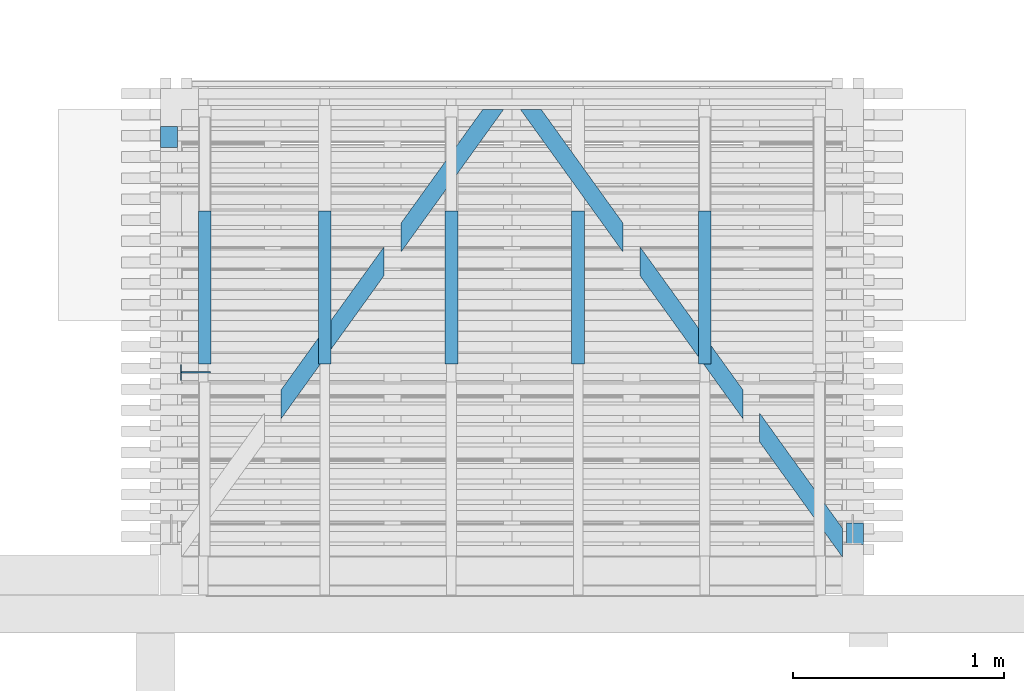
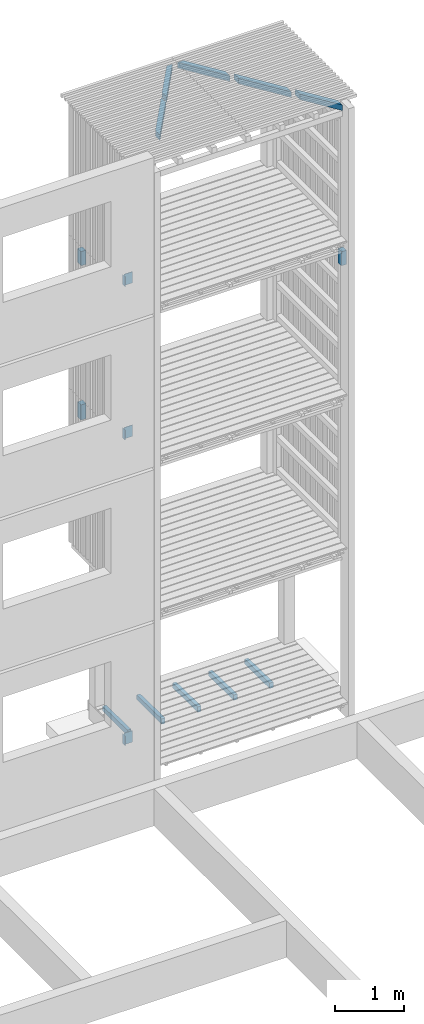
# One storey, part 175 of 182: 16 beams.
"""IFC2X3 building model written with IfcOpenShell, lengths in metres."""

from ifc_helpers import new_model, si_unit, frame, origin, place, context, project, spatial, faceted_brep, element, save


model = new_model("IFC2X3")

# Units and contexts
model_context = context("Model", 3, precision=1e-06, world=origin())
ifc_project = project(units=[si_unit("LENGTHUNIT", "METRE"), si_unit("PLANEANGLEUNIT", "RADIAN")], contexts=[model_context])

# Site, building, storey
site = spatial("IfcSite", under=ifc_project, CompositionType="ELEMENT")
building = spatial("IfcBuilding", under=site, CompositionType="ELEMENT")
storey = spatial("IfcBuildingStorey", under=building, Name="vs", CompositionType="ELEMENT", Elevation=-0.85)

# Beams
placement = place(None, origin())
beam_1_placement = place(placement, frame((53.190999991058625, 5.925077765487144, 7.839999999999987), z_axis=(1.0, 0.0, 0.0), x_axis=(0.0, 0.0, 1.0)))
element("IfcBeam", 1, at=beam_1_placement, inside=storey, Name="Contre-usinage", context=model_context, shape_type="Brep", body=[
    faceted_brep([(0.200000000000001, 0.004000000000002, -0.066000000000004), (0.200000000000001, -0.004000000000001, -0.066000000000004), (0.175000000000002, -0.004000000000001, -0.066000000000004), (0.175000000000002, 0.004000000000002, -0.066000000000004), (0.175000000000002, -0.004000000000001, -0.066000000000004), (2e-15, -0.004000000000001, -0.066000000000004), (2e-15, -0.038, -0.066000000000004), (0.175000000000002, -0.038, -0.066000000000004), (0.175000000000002, 0.038000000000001, -0.066000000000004), (2e-15, 0.038000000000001, -0.066000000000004), (2e-15, 0.004000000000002, -0.066000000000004), (0.175000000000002, 0.004000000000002, -0.066000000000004), (0.200000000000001, 0.004000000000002, -0.066000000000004), (0.175000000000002, 0.004000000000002, -0.066000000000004), (2e-15, 0.004000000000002, -0.066000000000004), (2e-15, 0.004000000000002, 0.070999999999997), (0.200000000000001, 0.004000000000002, 0.070999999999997), (0.200000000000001, 0.004000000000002, 0.070999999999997), (2e-15, 0.004000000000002, 0.070999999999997), (2e-15, -0.004000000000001, 0.070999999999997), (0.200000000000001, -0.004000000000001, 0.070999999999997), (0.175000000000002, -0.038, -0.070999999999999), (2e-15, -0.038, -0.070999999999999), (2e-15, 0.038000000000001, -0.070999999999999), (0.175000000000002, 0.038000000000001, -0.070999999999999), (0.175000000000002, 0.038000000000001, -0.066000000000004), (0.175000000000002, 0.004000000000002, -0.066000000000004), (0.175000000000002, -0.004000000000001, -0.066000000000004), (0.175000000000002, -0.038, -0.066000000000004), (0.175000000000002, -0.038, -0.070999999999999), (0.175000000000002, 0.038000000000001, -0.070999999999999), (0.200000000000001, -0.004000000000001, 0.070999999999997), (2e-15, -0.004000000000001, 0.070999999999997), (2e-15, -0.004000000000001, -0.066000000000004), (0.175000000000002, -0.004000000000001, -0.066000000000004), (0.200000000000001, -0.004000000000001, -0.066000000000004), (0.200000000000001, -0.004000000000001, -0.066000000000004), (0.200000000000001, 0.004000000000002, -0.066000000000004), (0.200000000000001, 0.004000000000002, 0.070999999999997), (0.200000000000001, -0.004000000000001, 0.070999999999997), (0.175000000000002, -0.038, -0.070999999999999), (0.175000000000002, -0.038, -0.066000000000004), (2e-15, -0.038, -0.066000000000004), (2e-15, -0.038, -0.070999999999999), (2e-15, -0.038, -0.066000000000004), (2e-15, -0.004000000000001, -0.066000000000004), (2e-15, -0.004000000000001, 0.070999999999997), (2e-15, 0.004000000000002, 0.070999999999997), (2e-15, 0.004000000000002, -0.066000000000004), (2e-15, 0.038000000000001, -0.066000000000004), (2e-15, 0.038000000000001, -0.070999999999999), (2e-15, -0.038, -0.070999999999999), (0.175000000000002, 0.038000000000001, -0.066000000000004), (0.175000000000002, 0.038000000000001, -0.070999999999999), (2e-15, 0.038000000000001, -0.070999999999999), (2e-15, 0.038000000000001, -0.066000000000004)], [[[0, 1, 2, 3]], [[4, 5, 6, 7]], [[8, 9, 10, 11]], [[12, 13, 14, 15, 16]], [[17, 18, 19, 20]], [[21, 22, 23, 24]], [[25, 26, 27, 28, 29, 30]], [[31, 32, 33, 34, 35]], [[36, 37, 38, 39]], [[40, 41, 42, 43]], [[44, 45, 46, 47, 48, 49, 50, 51]], [[52, 53, 54, 55]]]),
])
beam_2_placement = place(placement, frame((56.314999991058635, 5.160077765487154, 7.576188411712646), z_axis=(0.0, 1.0, 0.0), x_axis=(0.0, 0.0, 1.0)))
element("IfcBeam", 2, at=beam_2_placement, inside=storey, Name="Support bardage", context=model_context, shape_type="Brep", body=[
    faceted_brep([(0.248811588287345, 0.039999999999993, -0.050000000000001), (0.248811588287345, 0.039999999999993, 0.05), (0.248811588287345, -0.04000000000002, 0.05), (0.248811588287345, -0.04000000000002, -0.050000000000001), (0.248811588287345, 0.039999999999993, -0.050000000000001), (0.248811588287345, -0.04000000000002, -0.050000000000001), (0.0, -0.04000000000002, -0.050000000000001), (0.0, 0.039999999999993, -0.050000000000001), (0.0, -0.04000000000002, -0.050000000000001), (0.248811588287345, -0.04000000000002, -0.050000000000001), (0.248811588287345, -0.04000000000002, 0.05), (0.0, -0.04000000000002, 0.05), (0.0, -0.04000000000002, 0.05), (0.248811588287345, -0.04000000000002, 0.05), (0.248811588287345, 0.039999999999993, 0.05), (0.0, 0.039999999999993, 0.05), (0.0, 0.039999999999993, 0.05), (0.248811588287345, 0.039999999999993, 0.05), (0.248811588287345, 0.039999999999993, -0.050000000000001), (0.0, 0.039999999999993, -0.050000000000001), (0.0, -0.04000000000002, 0.05), (0.0, 0.039999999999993, 0.05), (0.0, 0.039999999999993, -0.050000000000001), (0.0, -0.04000000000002, -0.050000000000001)], [[[0, 1, 2, 3]], [[4, 5, 6, 7]], [[8, 9, 10, 11]], [[12, 13, 14, 15]], [[16, 17, 18, 19]], [[20, 21, 22, 23]]]),
])
beam_3_placement = place(placement, frame((55.60299999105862, 5.965077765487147, -0.091949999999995), z_axis=(0.0, 0.0, 1.0), x_axis=(0.0, 1.0, 0.0)))
element("IfcBeam", 3, at=beam_3_placement, inside=storey, Name="Solive", context=model_context, shape_type="Brep", body=[
    faceted_brep([(0.0, -0.029999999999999, -0.04805), (0.0, 0.030000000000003, -0.04805), (0.725000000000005, 0.030000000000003, -0.04805), (0.725000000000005, -0.029999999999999, -0.04805), (0.725000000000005, -0.029999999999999, 0.033549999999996), (0.0, -0.029999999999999, 0.048049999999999), (0.0, -0.029999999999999, -0.04805), (0.725000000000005, -0.029999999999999, -0.04805), (0.0, -0.029999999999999, 0.048049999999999), (0.725000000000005, -0.029999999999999, 0.033549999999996), (0.725000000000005, 0.030000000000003, 0.033549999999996), (0.0, 0.030000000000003, 0.048049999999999), (0.0, -0.029999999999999, 0.048049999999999), (0.0, 0.030000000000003, 0.048049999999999), (0.0, 0.030000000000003, -0.04805), (0.0, -0.029999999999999, -0.04805), (0.0, 0.030000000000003, -0.04805), (0.0, 0.030000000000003, 0.048049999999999), (0.725000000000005, 0.030000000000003, 0.033549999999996), (0.725000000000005, 0.030000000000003, -0.04805), (0.725000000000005, -0.029999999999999, 0.033549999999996), (0.725000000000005, -0.029999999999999, -0.04805), (0.725000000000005, 0.030000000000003, -0.04805), (0.725000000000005, 0.030000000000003, 0.033549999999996)], [[[0, 1, 2, 3]], [[4, 5, 6, 7]], [[8, 9, 10, 11]], [[12, 13, 14, 15]], [[16, 17, 18, 19]], [[20, 21, 22, 23]]]),
])
beam_4_placement = place(placement, frame((55.00299999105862, 5.965077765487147, -0.091949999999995), z_axis=(0.0, 0.0, 1.0), x_axis=(0.0, 1.0, 0.0)))
element("IfcBeam", 4, at=beam_4_placement, inside=storey, Name="Solive", context=model_context, shape_type="Brep", body=[
    faceted_brep([(0.0, -0.030000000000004, -0.04805), (0.0, 0.029999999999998, -0.04805), (0.725000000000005, 0.029999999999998, -0.04805), (0.725000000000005, -0.030000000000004, -0.04805), (0.725000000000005, -0.030000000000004, 0.033549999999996), (0.0, -0.030000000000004, 0.048049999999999), (0.0, -0.030000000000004, -0.04805), (0.725000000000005, -0.030000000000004, -0.04805), (0.0, -0.030000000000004, 0.048049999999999), (0.725000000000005, -0.030000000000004, 0.033549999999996), (0.725000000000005, 0.029999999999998, 0.033549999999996), (0.0, 0.029999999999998, 0.048049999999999), (0.0, -0.030000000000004, 0.048049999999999), (0.0, 0.029999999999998, 0.048049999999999), (0.0, 0.029999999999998, -0.04805), (0.0, -0.030000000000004, -0.04805), (0.0, 0.029999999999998, -0.04805), (0.0, 0.029999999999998, 0.048049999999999), (0.725000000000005, 0.029999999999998, 0.033549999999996), (0.725000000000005, 0.029999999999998, -0.04805), (0.725000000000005, -0.030000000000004, 0.033549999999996), (0.725000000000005, -0.030000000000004, -0.04805), (0.725000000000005, 0.029999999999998, -0.04805), (0.725000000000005, 0.029999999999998, 0.033549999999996)], [[[0, 1, 2, 3]], [[4, 5, 6, 7]], [[8, 9, 10, 11]], [[12, 13, 14, 15]], [[16, 17, 18, 19]], [[20, 21, 22, 23]]]),
])
beam_5_placement = place(placement, frame((53.23499999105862, 5.965077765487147, -0.091949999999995), z_axis=(0.0, 0.0, 1.0), x_axis=(0.0, 1.0, 0.0)))
element("IfcBeam", 5, at=beam_5_placement, inside=storey, Name="Solive", context=model_context, shape_type="Brep", body=[
    faceted_brep([(0.0, -0.030000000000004, -0.04805), (0.0, 0.029999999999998, -0.04805), (0.725000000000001, 0.029999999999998, -0.04805), (0.725000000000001, -0.030000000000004, -0.04805), (0.725000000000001, -0.030000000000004, 0.033549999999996), (0.0, -0.030000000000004, 0.048049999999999), (0.0, -0.030000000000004, -0.04805), (0.725000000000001, -0.030000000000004, -0.04805), (0.0, -0.030000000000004, 0.048049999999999), (0.725000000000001, -0.030000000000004, 0.033549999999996), (0.725000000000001, 0.029999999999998, 0.033549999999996), (0.0, 0.029999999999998, 0.048049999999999), (0.0, -0.030000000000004, 0.048049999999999), (0.0, 0.029999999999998, 0.048049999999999), (0.0, 0.029999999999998, -0.04805), (0.0, -0.030000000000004, -0.04805), (0.0, 0.029999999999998, -0.04805), (0.0, 0.029999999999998, 0.048049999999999), (0.725000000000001, 0.029999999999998, 0.033549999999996), (0.725000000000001, 0.029999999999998, -0.04805), (0.725000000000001, -0.030000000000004, 0.033549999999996), (0.725000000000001, -0.030000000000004, -0.04805), (0.725000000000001, 0.029999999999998, -0.04805), (0.725000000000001, 0.029999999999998, 0.033549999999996)], [[[0, 1, 2, 3]], [[4, 5, 6, 7]], [[8, 9, 10, 11]], [[12, 13, 14, 15]], [[16, 17, 18, 19]], [[20, 21, 22, 23]]]),
])
beam_6_placement = place(placement, frame((53.190999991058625, 5.925077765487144, -0.243899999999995), z_axis=(1.0, 0.0, 0.0), x_axis=(0.0, 0.0, 1.0)))
element("IfcBeam", 6, at=beam_6_placement, inside=storey, Name="Contre-usinage", context=model_context, shape_type="Brep", body=[
    faceted_brep([(0.2, 0.004000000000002, -0.066000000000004), (0.2, -0.004000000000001, -0.066000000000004), (0.175, -0.004000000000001, -0.066000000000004), (0.175, 0.004000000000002, -0.066000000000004), (0.175, -0.004000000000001, -0.066000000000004), (0.0, -0.004000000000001, -0.066000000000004), (0.0, -0.038, -0.066000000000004), (0.175, -0.038, -0.066000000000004), (0.175, 0.038000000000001, -0.066000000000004), (0.0, 0.038000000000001, -0.066000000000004), (0.0, 0.004000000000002, -0.066000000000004), (0.175, 0.004000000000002, -0.066000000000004), (0.2, 0.004000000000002, -0.066000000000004), (0.175, 0.004000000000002, -0.066000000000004), (0.0, 0.004000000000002, -0.066000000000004), (0.0, 0.004000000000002, 0.070999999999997), (0.2, 0.004000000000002, 0.070999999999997), (0.2, 0.004000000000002, 0.070999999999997), (0.0, 0.004000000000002, 0.070999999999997), (0.0, -0.004000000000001, 0.070999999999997), (0.2, -0.004000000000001, 0.070999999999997), (0.175, -0.038, -0.070999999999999), (0.0, -0.038, -0.070999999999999), (0.0, 0.038000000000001, -0.070999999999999), (0.175, 0.038000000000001, -0.070999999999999), (0.2, -0.004000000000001, -0.066000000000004), (0.2, 0.004000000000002, -0.066000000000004), (0.2, 0.004000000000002, 0.070999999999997), (0.2, -0.004000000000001, 0.070999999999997), (0.2, -0.004000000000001, 0.070999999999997), (0.0, -0.004000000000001, 0.070999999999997), (0.0, -0.004000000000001, -0.066000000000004), (0.175, -0.004000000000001, -0.066000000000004), (0.2, -0.004000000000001, -0.066000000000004), (0.175, 0.038000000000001, -0.066000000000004), (0.175, 0.004000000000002, -0.066000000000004), (0.175, -0.004000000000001, -0.066000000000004), (0.175, -0.038, -0.066000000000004), (0.175, -0.038, -0.070999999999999), (0.175, 0.038000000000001, -0.070999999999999), (0.0, -0.038, -0.066000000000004), (0.0, -0.004000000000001, -0.066000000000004), (0.0, -0.004000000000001, 0.070999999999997), (0.0, 0.004000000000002, 0.070999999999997), (0.0, 0.004000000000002, -0.066000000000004), (0.0, 0.038000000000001, -0.066000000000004), (0.0, 0.038000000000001, -0.070999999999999), (0.0, -0.038, -0.070999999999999), (0.175, -0.038, -0.070999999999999), (0.175, -0.038, -0.066000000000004), (0.0, -0.038, -0.066000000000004), (0.0, -0.038, -0.070999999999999), (0.175, 0.038000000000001, -0.066000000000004), (0.175, 0.038000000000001, -0.070999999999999), (0.0, 0.038000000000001, -0.070999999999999), (0.0, 0.038000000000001, -0.066000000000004)], [[[0, 1, 2, 3]], [[4, 5, 6, 7]], [[8, 9, 10, 11]], [[12, 13, 14, 15, 16]], [[17, 18, 19, 20]], [[21, 22, 23, 24]], [[25, 26, 27, 28]], [[29, 30, 31, 32, 33]], [[34, 35, 36, 37, 38, 39]], [[40, 41, 42, 43, 44, 45, 46, 47]], [[48, 49, 50, 51]], [[52, 53, 54, 55]]]),
])
beam_7_placement = place(placement, frame((53.56419511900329, 5.729129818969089, 10.404999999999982), z_axis=(0.0, 0.0, 1.0), x_axis=(0.583951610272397, 0.811788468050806, 0.0)))
element("IfcBeam", 7, at=beam_7_placement, inside=storey, Name="Support bardage", context=model_context, shape_type="Brep", body=[
    faceted_brep([(0.833402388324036, -0.040000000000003, 0.050000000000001), (0.833402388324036, -0.040000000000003, -0.050000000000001), (0.944615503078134, 0.039999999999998, -0.050000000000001), (0.944615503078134, 0.039999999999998, 0.050000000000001), (0.833402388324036, -0.040000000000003, -0.050000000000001), (0.833402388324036, -0.040000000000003, 0.050000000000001), (3e-15, -0.040000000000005, 0.050000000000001), (3e-15, -0.040000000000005, -0.050000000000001), (0.944615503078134, 0.039999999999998, -0.050000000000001), (0.833402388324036, -0.040000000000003, -0.050000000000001), (3e-15, -0.040000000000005, -0.050000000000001), (0.111213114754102, 0.039999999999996, -0.050000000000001), (0.944615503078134, 0.039999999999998, 0.050000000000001), (0.944615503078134, 0.039999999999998, -0.050000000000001), (0.111213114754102, 0.039999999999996, -0.050000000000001), (0.111213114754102, 0.039999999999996, 0.050000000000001), (0.833402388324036, -0.040000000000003, 0.050000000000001), (0.944615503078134, 0.039999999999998, 0.050000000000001), (0.111213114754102, 0.039999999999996, 0.050000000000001), (3e-15, -0.040000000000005, 0.050000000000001), (0.111213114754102, 0.039999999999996, -0.050000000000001), (3e-15, -0.040000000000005, -0.050000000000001), (3e-15, -0.040000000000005, 0.050000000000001), (0.111213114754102, 0.039999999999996, 0.050000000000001)], [[[0, 1, 2, 3]], [[4, 5, 6, 7]], [[8, 9, 10, 11]], [[12, 13, 14, 15]], [[16, 17, 18, 19]], [[20, 21, 22, 23]]]),
])
beam_8_placement = place(placement, frame((54.130861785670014, 6.51688938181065, 10.404999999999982), z_axis=(0.0, 0.0, 1.0), x_axis=(0.583951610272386, 0.811788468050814, 0.0)))
element("IfcBeam", 8, at=beam_8_placement, inside=storey, Name="Support bardage", context=model_context, shape_type="Brep", body=[
    faceted_brep([(0.775855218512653, 0.039999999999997, -0.050000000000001), (0.775855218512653, 0.039999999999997, 0.050000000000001), (0.833402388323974, -0.040000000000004, 0.050000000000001), (0.833402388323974, -0.040000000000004, -0.049999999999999), (0.833402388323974, -0.040000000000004, -0.049999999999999), (0.833402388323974, -0.040000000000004, 0.050000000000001), (4e-15, -0.040000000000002, 0.050000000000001), (4e-15, -0.040000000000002, -0.050000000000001), (0.775855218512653, 0.039999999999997, -0.050000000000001), (0.833402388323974, -0.040000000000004, -0.049999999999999), (4e-15, -0.040000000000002, -0.050000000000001), (0.111213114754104, 0.039999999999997, -0.050000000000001), (0.775855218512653, 0.039999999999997, 0.050000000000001), (0.775855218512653, 0.039999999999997, -0.050000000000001), (0.111213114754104, 0.039999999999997, -0.050000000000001), (0.111213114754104, 0.039999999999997, 0.050000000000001), (0.833402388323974, -0.040000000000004, 0.050000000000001), (0.775855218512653, 0.039999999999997, 0.050000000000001), (0.111213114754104, 0.039999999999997, 0.050000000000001), (4e-15, -0.040000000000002, 0.050000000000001), (0.111213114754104, 0.039999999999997, -0.050000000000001), (4e-15, -0.040000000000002, -0.050000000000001), (4e-15, -0.040000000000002, 0.050000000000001), (0.111213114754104, 0.039999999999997, 0.050000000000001)], [[[0, 1, 2, 3]], [[4, 5, 6, 7]], [[8, 9, 10, 11]], [[12, 13, 14, 15]], [[16, 17, 18, 19]], [[20, 21, 22, 23]]]),
])
beam_9_placement = place(placement, frame((55.24913819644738, 6.516889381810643, 10.404999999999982), z_axis=(0.0, 0.0, 1.0), x_axis=(-0.583951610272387, 0.811788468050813, 0.0)))
element("IfcBeam", 9, at=beam_9_placement, inside=storey, Name="Support bardage", context=model_context, shape_type="Brep", body=[
    faceted_brep([(0.0, 0.040000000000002, 0.050000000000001), (0.0, 0.040000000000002, -0.050000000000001), (0.1112131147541, -0.039999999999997, -0.050000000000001), (0.1112131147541, -0.039999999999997, 0.050000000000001), (0.775855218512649, -0.039999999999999, 0.050000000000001), (0.83340238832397, 0.040000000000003, 0.050000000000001), (0.0, 0.040000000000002, 0.050000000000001), (0.1112131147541, -0.039999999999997, 0.050000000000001), (0.83340238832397, 0.040000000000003, -0.049999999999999), (0.775855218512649, -0.039999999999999, -0.050000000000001), (0.1112131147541, -0.039999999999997, -0.050000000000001), (0.0, 0.040000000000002, -0.050000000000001), (0.0, 0.040000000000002, 0.050000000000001), (0.83340238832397, 0.040000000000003, 0.050000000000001), (0.83340238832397, 0.040000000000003, -0.049999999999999), (0.0, 0.040000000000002, -0.050000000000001), (0.83340238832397, 0.040000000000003, 0.050000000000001), (0.775855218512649, -0.039999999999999, 0.050000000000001), (0.775855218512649, -0.039999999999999, -0.050000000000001), (0.83340238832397, 0.040000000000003, -0.049999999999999), (0.1112131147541, -0.039999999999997, -0.050000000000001), (0.775855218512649, -0.039999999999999, -0.050000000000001), (0.775855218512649, -0.039999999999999, 0.050000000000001), (0.1112131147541, -0.039999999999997, 0.050000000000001)], [[[0, 1, 2, 3]], [[4, 5, 6, 7]], [[8, 9, 10, 11]], [[12, 13, 14, 15]], [[16, 17, 18, 19]], [[20, 21, 22, 23]]]),
])
beam_10_placement = place(placement, frame((53.80299999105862, 5.965077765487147, -0.091949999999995), z_axis=(0.0, 0.0, 1.0), x_axis=(0.0, 1.0, 0.0)))
element("IfcBeam", 10, at=beam_10_placement, inside=storey, Name="Solive", context=model_context, shape_type="Brep", body=[
    faceted_brep([(0.0, -0.030000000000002, -0.04805), (0.0, 0.030000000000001, -0.04805), (0.725000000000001, 0.030000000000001, -0.04805), (0.725000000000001, -0.030000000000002, -0.04805), (0.725000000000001, -0.030000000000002, 0.033549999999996), (0.0, -0.030000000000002, 0.048049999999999), (0.0, -0.030000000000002, -0.04805), (0.725000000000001, -0.030000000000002, -0.04805), (0.0, -0.030000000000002, 0.048049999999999), (0.725000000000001, -0.030000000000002, 0.033549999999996), (0.725000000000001, 0.030000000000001, 0.033549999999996), (0.0, 0.030000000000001, 0.048049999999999), (0.0, -0.030000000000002, 0.048049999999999), (0.0, 0.030000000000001, 0.048049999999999), (0.0, 0.030000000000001, -0.04805), (0.0, -0.030000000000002, -0.04805), (0.0, 0.030000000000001, -0.04805), (0.0, 0.030000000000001, 0.048049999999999), (0.725000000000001, 0.030000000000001, 0.033549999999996), (0.725000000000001, 0.030000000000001, -0.04805), (0.725000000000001, -0.030000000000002, 0.033549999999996), (0.725000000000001, -0.030000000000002, -0.04805), (0.725000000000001, 0.030000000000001, -0.04805), (0.725000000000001, 0.030000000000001, 0.033549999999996)], [[[0, 1, 2, 3]], [[4, 5, 6, 7]], [[8, 9, 10, 11]], [[12, 13, 14, 15]], [[16, 17, 18, 19]], [[20, 21, 22, 23]]]),
])
beam_11_placement = place(placement, frame((56.28747152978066, 5.073435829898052, 10.404999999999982), z_axis=(0.0, 0.0, 1.0), x_axis=(-0.58395161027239, 0.811788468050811, 0.0)))
element("IfcBeam", 11, at=beam_11_placement, inside=storey, Name="Support bardage", context=model_context, shape_type="Brep", body=[
    faceted_brep([(2e-15, 0.040000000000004, -0.050000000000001), (0.111213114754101, -0.039999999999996, -0.049999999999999), (0.111213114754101, -0.039999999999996, 0.050000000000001), (2e-15, 0.040000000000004, 0.050000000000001), (0.111213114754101, -0.039999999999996, -0.049999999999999), (2e-15, 0.040000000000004, -0.050000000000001), (0.670717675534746, 0.04, -0.050000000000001), (0.781930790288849, -0.040000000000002, -0.050000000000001), (0.111213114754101, -0.039999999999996, 0.050000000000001), (0.111213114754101, -0.039999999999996, -0.049999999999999), (0.781930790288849, -0.040000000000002, -0.050000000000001), (0.781930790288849, -0.040000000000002, 0.050000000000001), (2e-15, 0.040000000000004, 0.050000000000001), (0.111213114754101, -0.039999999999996, 0.050000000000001), (0.781930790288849, -0.040000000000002, 0.050000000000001), (0.670717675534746, 0.04, 0.050000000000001), (0.670717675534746, 0.04, -0.050000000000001), (2e-15, 0.040000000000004, -0.050000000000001), (2e-15, 0.040000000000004, 0.050000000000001), (0.670717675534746, 0.04, 0.050000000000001), (0.670717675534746, 0.04, 0.050000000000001), (0.781930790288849, -0.040000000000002, 0.050000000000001), (0.781930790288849, -0.040000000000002, -0.050000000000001), (0.670717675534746, 0.04, -0.050000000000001)], [[[0, 1, 2, 3]], [[4, 5, 6, 7]], [[8, 9, 10, 11]], [[12, 13, 14, 15]], [[16, 17, 18, 19]], [[20, 21, 22, 23]]]),
])
beam_12_placement = place(placement, frame((55.815804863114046, 5.729129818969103, 10.404999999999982), z_axis=(0.0, 0.0, 1.0), x_axis=(-0.583951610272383, 0.811788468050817, 0.0)))
element("IfcBeam", 12, at=beam_12_placement, inside=storey, Name="Support bardage", context=model_context, shape_type="Brep", body=[
    faceted_brep([(0.111213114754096, -0.040000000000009, -0.050000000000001), (0.111213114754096, -0.040000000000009, 0.050000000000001), (-1e-14, 0.039999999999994, 0.050000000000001), (-1e-14, 0.039999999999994, -0.050000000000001), (0.833402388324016, 0.040000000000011, -0.050000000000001), (0.94461550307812, -0.039999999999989, -0.050000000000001), (0.111213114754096, -0.040000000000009, -0.050000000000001), (-1e-14, 0.039999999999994, -0.050000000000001), (0.833402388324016, 0.040000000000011, 0.050000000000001), (0.833402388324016, 0.040000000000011, -0.050000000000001), (-1e-14, 0.039999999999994, -0.050000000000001), (-1e-14, 0.039999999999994, 0.050000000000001), (0.111213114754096, -0.040000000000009, -0.050000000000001), (0.94461550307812, -0.039999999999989, -0.050000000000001), (0.94461550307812, -0.039999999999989, 0.050000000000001), (0.111213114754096, -0.040000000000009, 0.050000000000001), (0.111213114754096, -0.040000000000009, 0.050000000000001), (0.94461550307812, -0.039999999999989, 0.050000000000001), (0.833402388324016, 0.040000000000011, 0.050000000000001), (-1e-14, 0.039999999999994, 0.050000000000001), (0.94461550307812, -0.039999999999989, -0.050000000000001), (0.833402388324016, 0.040000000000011, -0.050000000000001), (0.833402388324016, 0.040000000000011, 0.050000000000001), (0.94461550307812, -0.039999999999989, 0.050000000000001)], [[[0, 1, 2, 3]], [[4, 5, 6, 7]], [[8, 9, 10, 11]], [[12, 13, 14, 15]], [[16, 17, 18, 19]], [[20, 21, 22, 23]]]),
])
beam_13_placement = place(placement, frame((54.40299999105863, 5.965077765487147, -0.091949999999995), z_axis=(0.0, 0.0, 1.0), x_axis=(0.0, 1.0, 0.0)))
element("IfcBeam", 13, at=beam_13_placement, inside=storey, Name="Solive", context=model_context, shape_type="Brep", body=[
    faceted_brep([(0.0, -0.029999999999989, -0.04805), (0.0, 0.029999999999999, -0.04805), (0.725000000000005, 0.029999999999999, -0.04805), (0.725000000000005, -0.030000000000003, -0.04805), (0.725000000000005, -0.029999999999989, 0.033549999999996), (0.0, -0.029999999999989, 0.048049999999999), (0.0, -0.029999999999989, -0.04805), (0.725000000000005, -0.030000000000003, -0.04805), (0.0, -0.029999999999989, 0.048049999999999), (0.725000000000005, -0.029999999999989, 0.033549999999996), (0.725000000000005, 0.029999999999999, 0.033549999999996), (0.0, 0.029999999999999, 0.048049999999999), (0.0, -0.029999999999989, 0.048049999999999), (0.0, 0.029999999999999, 0.048049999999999), (0.0, 0.029999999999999, -0.04805), (0.0, -0.029999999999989, -0.04805), (0.0, 0.029999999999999, -0.04805), (0.0, 0.029999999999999, 0.048049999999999), (0.725000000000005, 0.029999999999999, 0.033549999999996), (0.725000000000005, 0.029999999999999, -0.04805), (0.725000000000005, -0.029999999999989, 0.033549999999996), (0.725000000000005, -0.030000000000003, -0.04805), (0.725000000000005, 0.029999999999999, -0.04805), (0.725000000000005, 0.029999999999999, 0.033549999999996)], [[[0, 1, 2, 3]], [[4, 5, 6, 7]], [[8, 9, 10, 11]], [[12, 13, 14, 15]], [[16, 17, 18, 19]], [[20, 21, 22, 23]]]),
])
beam_14_placement = place(placement, frame((53.190999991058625, 5.925077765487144, 5.139999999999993), z_axis=(1.0, 0.0, 0.0), x_axis=(0.0, 0.0, 1.0)))
element("IfcBeam", 14, at=beam_14_placement, inside=storey, Name="Contre-usinage", context=model_context, shape_type="Brep", body=[
    faceted_brep([(0.2, 0.004000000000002, -0.066000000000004), (0.2, -0.004000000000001, -0.066000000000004), (0.174999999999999, -0.004000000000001, -0.066000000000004), (0.174999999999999, 0.004000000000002, -0.066000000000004), (0.174999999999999, -0.004000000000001, -0.066000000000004), (0.0, -0.004000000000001, -0.066000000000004), (0.0, -0.038, -0.066000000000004), (0.174999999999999, -0.038, -0.066000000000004), (0.174999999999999, 0.038000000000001, -0.066000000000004), (0.0, 0.038000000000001, -0.066000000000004), (0.0, 0.004000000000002, -0.066000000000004), (0.174999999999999, 0.004000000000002, -0.066000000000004), (0.2, 0.004000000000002, -0.066000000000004), (0.174999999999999, 0.004000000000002, -0.066000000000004), (0.0, 0.004000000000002, -0.066000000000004), (0.0, 0.004000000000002, 0.070999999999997), (0.2, 0.004000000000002, 0.070999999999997), (0.2, 0.004000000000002, 0.070999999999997), (0.0, 0.004000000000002, 0.070999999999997), (0.0, -0.004000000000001, 0.070999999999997), (0.2, -0.004000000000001, 0.070999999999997), (0.174999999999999, -0.038, -0.070999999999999), (0.0, -0.038, -0.070999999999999), (0.0, 0.038000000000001, -0.070999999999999), (0.174999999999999, 0.038000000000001, -0.070999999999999), (0.174999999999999, 0.038000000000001, -0.066000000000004), (0.174999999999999, 0.004000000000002, -0.066000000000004), (0.174999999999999, -0.004000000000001, -0.066000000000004), (0.174999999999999, -0.038, -0.066000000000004), (0.174999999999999, -0.038, -0.070999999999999), (0.174999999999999, 0.038000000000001, -0.070999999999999), (0.2, -0.004000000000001, 0.070999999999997), (0.0, -0.004000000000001, 0.070999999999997), (0.0, -0.004000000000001, -0.066000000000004), (0.174999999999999, -0.004000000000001, -0.066000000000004), (0.2, -0.004000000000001, -0.066000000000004), (0.2, -0.004000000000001, -0.066000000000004), (0.2, 0.004000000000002, -0.066000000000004), (0.2, 0.004000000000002, 0.070999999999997), (0.2, -0.004000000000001, 0.070999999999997), (0.174999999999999, -0.038, -0.070999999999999), (0.174999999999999, -0.038, -0.066000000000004), (0.0, -0.038, -0.066000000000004), (0.0, -0.038, -0.070999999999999), (0.0, -0.038, -0.066000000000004), (0.0, -0.004000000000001, -0.066000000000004), (0.0, -0.004000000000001, 0.070999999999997), (0.0, 0.004000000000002, 0.070999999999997), (0.0, 0.004000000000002, -0.066000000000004), (0.0, 0.038000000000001, -0.066000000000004), (0.0, 0.038000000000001, -0.070999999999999), (0.0, -0.038, -0.070999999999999), (0.174999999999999, 0.038000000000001, -0.066000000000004), (0.174999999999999, 0.038000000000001, -0.070999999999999), (0.0, 0.038000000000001, -0.070999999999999), (0.0, 0.038000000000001, -0.066000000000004)], [[[0, 1, 2, 3]], [[4, 5, 6, 7]], [[8, 9, 10, 11]], [[12, 13, 14, 15, 16]], [[17, 18, 19, 20]], [[21, 22, 23, 24]], [[25, 26, 27, 28, 29, 30]], [[31, 32, 33, 34, 35]], [[36, 37, 38, 39]], [[40, 41, 42, 43]], [[44, 45, 46, 47, 48, 49, 50, 51]], [[52, 53, 54, 55]]]),
])
beam_15_placement = place(placement, frame((53.06499999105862, 7.040077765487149, 7.576188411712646), z_axis=(0.0, -1.0, 0.0), x_axis=(0.0, 0.0, 1.0)))
element("IfcBeam", 15, at=beam_15_placement, inside=storey, Name="Support bardage", context=model_context, shape_type="Brep", body=[
    faceted_brep([(0.248811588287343, -0.040000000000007, -0.050000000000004), (0.248811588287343, 0.039999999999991, -0.050000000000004), (0.248811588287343, 0.039999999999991, 0.049999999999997), (0.248811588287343, -0.040000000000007, 0.049999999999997), (0.248811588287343, 0.039999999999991, 0.049999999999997), (0.248811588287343, 0.039999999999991, -0.050000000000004), (0.0, 0.039999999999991, -0.050000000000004), (0.0, 0.039999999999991, 0.049999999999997), (0.248811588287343, 0.039999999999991, -0.050000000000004), (0.248811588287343, -0.040000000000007, -0.050000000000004), (0.0, -0.040000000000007, -0.050000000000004), (0.0, 0.039999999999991, -0.050000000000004), (0.248811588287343, -0.040000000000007, -0.050000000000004), (0.248811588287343, -0.040000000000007, 0.049999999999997), (0.0, -0.040000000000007, 0.049999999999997), (0.0, -0.040000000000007, -0.050000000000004), (0.248811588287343, -0.040000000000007, 0.049999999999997), (0.248811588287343, 0.039999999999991, 0.049999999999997), (0.0, 0.039999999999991, 0.049999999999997), (0.0, -0.040000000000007, 0.049999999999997), (0.0, -0.040000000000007, -0.050000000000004), (0.0, -0.040000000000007, 0.049999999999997), (0.0, 0.039999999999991, 0.049999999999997), (0.0, 0.039999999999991, -0.050000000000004)], [[[0, 1, 2, 3]], [[4, 5, 6, 7]], [[8, 9, 10, 11]], [[12, 13, 14, 15]], [[16, 17, 18, 19]], [[20, 21, 22, 23]]]),
])
beam_16_placement = place(placement, frame((53.06499999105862, 7.040077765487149, 4.85796194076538), z_axis=(0.0, -1.0, 0.0), x_axis=(0.0, 0.0, 1.0)))
element("IfcBeam", 16, at=beam_16_placement, inside=storey, Name="Support bardage", context=model_context, shape_type="Brep", body=[
    faceted_brep([(0.267038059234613, -0.040000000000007, -0.050000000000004), (0.267038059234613, 0.039999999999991, -0.050000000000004), (0.267038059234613, 0.039999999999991, 0.049999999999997), (0.267038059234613, -0.040000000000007, 0.049999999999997), (0.267038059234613, 0.039999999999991, 0.049999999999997), (0.267038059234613, 0.039999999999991, -0.050000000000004), (0.0, 0.039999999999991, -0.050000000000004), (0.0, 0.039999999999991, 0.049999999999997), (0.267038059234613, -0.040000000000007, 0.049999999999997), (0.267038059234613, 0.039999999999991, 0.049999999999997), (0.0, 0.039999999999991, 0.049999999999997), (0.0, -0.040000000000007, 0.049999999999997), (0.267038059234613, 0.039999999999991, -0.050000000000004), (0.267038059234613, -0.040000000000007, -0.050000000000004), (0.0, -0.040000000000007, -0.050000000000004), (0.0, 0.039999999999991, -0.050000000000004), (0.267038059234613, -0.040000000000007, -0.050000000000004), (0.267038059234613, -0.040000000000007, 0.049999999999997), (0.0, -0.040000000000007, 0.049999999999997), (0.0, -0.040000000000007, -0.050000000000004), (0.0, 0.039999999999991, -0.050000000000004), (0.0, -0.040000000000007, -0.050000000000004), (0.0, -0.040000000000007, 0.049999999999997), (0.0, 0.039999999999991, 0.049999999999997)], [[[0, 1, 2, 3]], [[4, 5, 6, 7]], [[8, 9, 10, 11]], [[12, 13, 14, 15]], [[16, 17, 18, 19]], [[20, 21, 22, 23]]]),
])

save(model, "model.ifc")
